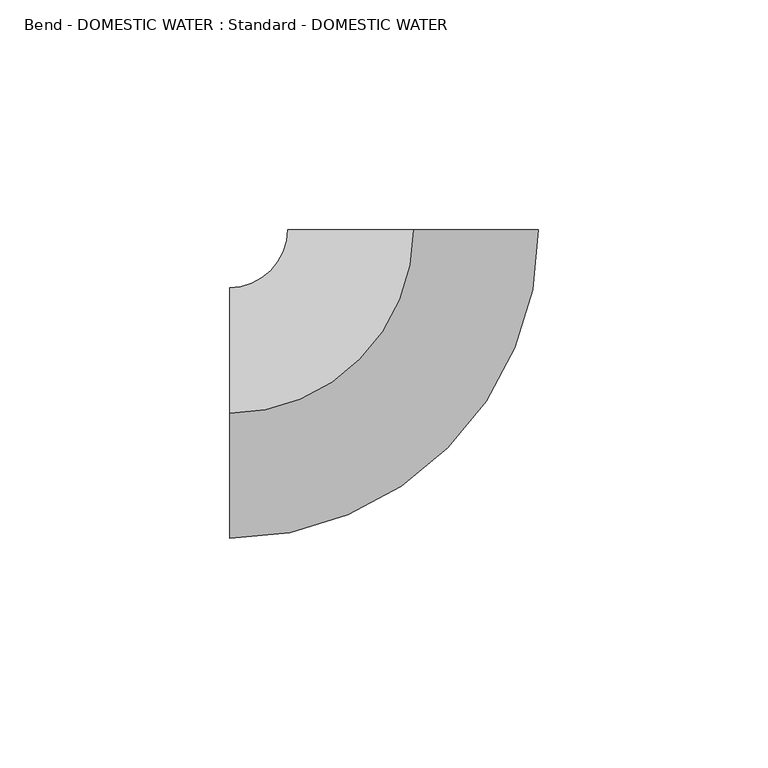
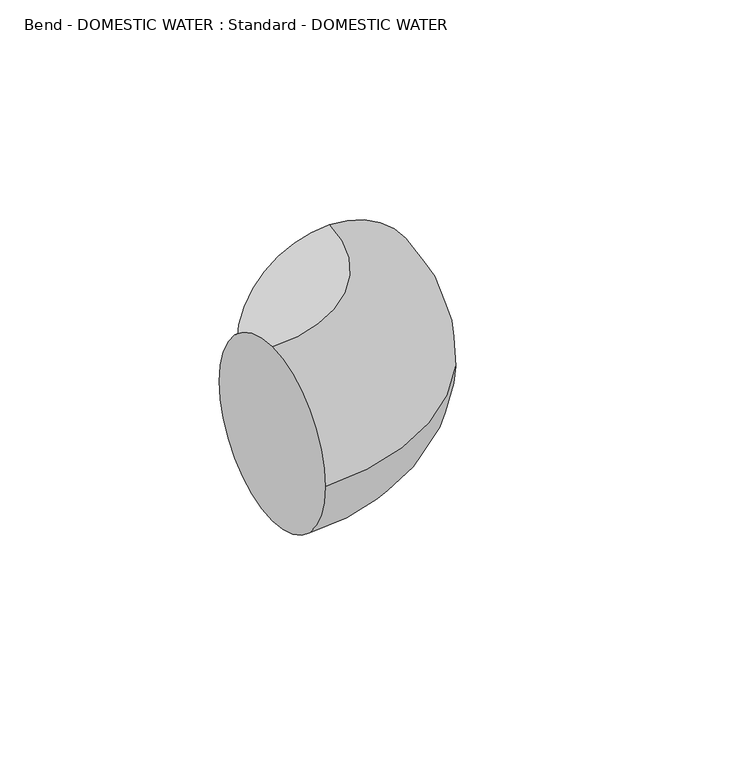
"""IFC4 building model written with IfcOpenShell, lengths in millimetres: pipe fitting geometry, Bend - DOMESTIC WATER : Standard - DOMESTIC WATER."""

from ifc_helpers import new_model, si_unit, point, frame, origin, place, context, project, spatial, circle_curve, ellipse_curve, trimmed, source, transform, mapped, element, save
from ifc_brep_helpers import plane_surface, revolved_surface, advanced_brep


def bend_domestic_water_standard_domestic_water_76ba9614(model_context):
    return source(origin(), model_context, "Body", "AdvancedBrep", [
        advanced_brep(
        [(-40.005, 0.0, 27.305), (-40.005, 27.305, 0.0), (-40.005, 0.0, -27.305), (-40.005, -27.305, 0.0), (0.0, 40.005, 27.305), (27.305, 40.005, 0.0), (0.0, 40.005, -27.305), (-27.305, 40.005, 0.0)],
        [
            (0, 1, circle_curve(frame((-40.005, 0.0, 0.0), z_axis=(-1.0, 0.0, 0.0), x_axis=(0.0, 1.0, 0.0)), 27.305)),
            (1, 2, circle_curve(frame((-40.005, 0.0, 0.0), z_axis=(-1.0, 0.0, 0.0), x_axis=(0.0, 1.0, 0.0)), 27.305)),
            (2, 3, circle_curve(frame((-40.005, 0.0, 0.0), z_axis=(-1.0, 0.0, 0.0), x_axis=(0.0, 1.0, 0.0)), 27.305)),
            (3, 0, circle_curve(frame((-40.005, 0.0, 0.0), z_axis=(-1.0, 0.0, 0.0), x_axis=(0.0, 1.0, 0.0)), 27.305)),
            (4, 5, circle_curve(frame((0.0, 40.005, 0.0), z_axis=(0.0, 1.0, 0.0), x_axis=(-1.0, 0.0, 0.0)), 27.305)),
            (5, 6, circle_curve(frame((0.0, 40.005, 0.0), z_axis=(0.0, 1.0, 0.0), x_axis=(-1.0, 0.0, 0.0)), 27.305)),
            (6, 7, circle_curve(frame((0.0, 40.005, 0.0), z_axis=(0.0, 1.0, 0.0), x_axis=(-1.0, 0.0, 0.0)), 27.305)),
            (7, 4, circle_curve(frame((0.0, 40.005, 0.0), z_axis=(0.0, 1.0, 0.0), x_axis=(-1.0, 0.0, 0.0)), 27.305)),
            (7, 1, circle_curve(frame((-40.005, 40.005, 0.0), z_axis=(0.0, 0.0, -1.0), x_axis=(0.0, -1.0, 0.0)), 12.7)),
            (0, 4, circle_curve(frame((-40.005, 40.005, 27.305), z_axis=(0.0, 0.0, 1.0), x_axis=(0.0, -1.0, 0.0)), 40.005)),
            (6, 2, circle_curve(frame((-40.005, 40.005, -27.305), z_axis=(0.0, 0.0, -1.0), x_axis=(0.0, -1.0, 0.0)), 40.005)),
            (5, 3, circle_curve(frame((-40.005, 40.005, 0.0), z_axis=(0.0, 0.0, -1.0), x_axis=(0.0, -1.0, 0.0)), 67.31)),
        ],
        [
            plane_surface(frame((-40.005, 0.0, 0.0), z_axis=(-1.0, 0.0, 0.0), x_axis=(0.0, 0.0, 1.0))),
            plane_surface(frame((0.0, 40.005, 0.0), z_axis=(0.0, 1.0, 0.0), x_axis=(0.0, 0.0, 1.0))),
            revolved_surface(trimmed(ellipse_curve(frame((-40.005, 0.0, 0.0), z_axis=(-1.0, 0.0, 0.0), x_axis=(0.0, 1.0, 0.0)), 27.305, 27.305), [point((-40.005, 0.0, 27.305))], [point((-40.005, 27.305, 0.0))], True, "CARTESIAN"), (-40.005, 40.005, 0.0), (0.0, 0.0, 1.0)),
            revolved_surface(trimmed(ellipse_curve(frame((-40.005, 0.0, 0.0), z_axis=(-1.0, 0.0, 0.0), x_axis=(0.0, 1.0, 0.0)), 27.305, 27.305), [point((-40.005, 27.305, 0.0))], [point((-40.005, 0.0, -27.305))], True, "CARTESIAN"), (-40.005, 40.005, 0.0), (0.0, 0.0, 1.0)),
            revolved_surface(trimmed(ellipse_curve(frame((-40.005, 0.0, 0.0), z_axis=(-1.0, 0.0, 0.0), x_axis=(0.0, 1.0, 0.0)), 27.305, 27.305), [point((-40.005, 0.0, -27.305))], [point((-40.005, -27.305, 0.0))], True, "CARTESIAN"), (-40.005, 40.005, 0.0), (0.0, 0.0, 1.0)),
            revolved_surface(trimmed(ellipse_curve(frame((-40.005, 0.0, 0.0), z_axis=(-1.0, 0.0, 0.0), x_axis=(0.0, 1.0, 0.0)), 27.305, 27.305), [point((-40.005, -27.305, 0.0))], [point((-40.005, 0.0, 27.305))], True, "CARTESIAN"), (-40.005, 40.005, 0.0), (0.0, 0.0, 1.0)),
        ],
        [
            (0, [[1, 2, 3, 4]]),
            (1, [[5, 6, 7, 8]]),
            (2, [[9, -1, 10, -8]]),
            (3, [[11, -2, -9, -7]]),
            (4, [[12, -3, -11, -6]]),
            (5, [[-10, -4, -12, -5]]),
        ],
    ),
        advanced_brep(
        [(-40.005, 0.0, 27.305), (-40.005, 27.305, 0.0), (-40.005, 0.0, -27.305), (-40.005, -27.305, 0.0), (0.0, 40.005, 27.305), (27.305, 40.005, 0.0), (0.0, 40.005, -27.305), (-27.305, 40.005, 0.0)],
        [
            (0, 1, circle_curve(frame((-40.005, 0.0, 0.0), z_axis=(-1.0, 0.0, 0.0), x_axis=(0.0, 1.0, 0.0)), 27.305)),
            (1, 2, circle_curve(frame((-40.005, 0.0, 0.0), z_axis=(-1.0, 0.0, 0.0), x_axis=(0.0, 1.0, 0.0)), 27.305)),
            (2, 3, circle_curve(frame((-40.005, 0.0, 0.0), z_axis=(-1.0, 0.0, 0.0), x_axis=(0.0, 1.0, 0.0)), 27.305)),
            (3, 0, circle_curve(frame((-40.005, 0.0, 0.0), z_axis=(-1.0, 0.0, 0.0), x_axis=(0.0, 1.0, 0.0)), 27.305)),
            (4, 5, circle_curve(frame((0.0, 40.005, 0.0), z_axis=(0.0, 1.0, 0.0), x_axis=(-1.0, 0.0, 0.0)), 27.305)),
            (5, 6, circle_curve(frame((0.0, 40.005, 0.0), z_axis=(0.0, 1.0, 0.0), x_axis=(-1.0, 0.0, 0.0)), 27.305)),
            (6, 7, circle_curve(frame((0.0, 40.005, 0.0), z_axis=(0.0, 1.0, 0.0), x_axis=(-1.0, 0.0, 0.0)), 27.305)),
            (7, 4, circle_curve(frame((0.0, 40.005, 0.0), z_axis=(0.0, 1.0, 0.0), x_axis=(-1.0, 0.0, 0.0)), 27.305)),
            (7, 1, circle_curve(frame((-40.005, 40.005, 0.0), z_axis=(0.0, 0.0, -1.0), x_axis=(0.0, -1.0, 0.0)), 12.7)),
            (0, 4, circle_curve(frame((-40.005, 40.005, 27.305), z_axis=(0.0, 0.0, 1.0), x_axis=(0.0, -1.0, 0.0)), 40.005)),
            (6, 2, circle_curve(frame((-40.005, 40.005, -27.305), z_axis=(0.0, 0.0, -1.0), x_axis=(0.0, -1.0, 0.0)), 40.005)),
            (5, 3, circle_curve(frame((-40.005, 40.005, 0.0), z_axis=(0.0, 0.0, -1.0), x_axis=(0.0, -1.0, 0.0)), 67.31)),
        ],
        [
            plane_surface(frame((-40.005, 0.0, 0.0), z_axis=(-1.0, 0.0, 0.0), x_axis=(0.0, 0.0, 1.0))),
            plane_surface(frame((0.0, 40.005, 0.0), z_axis=(0.0, 1.0, 0.0), x_axis=(0.0, 0.0, 1.0))),
            revolved_surface(trimmed(ellipse_curve(frame((-40.005, 0.0, 0.0), z_axis=(-1.0, 0.0, 0.0), x_axis=(0.0, 1.0, 0.0)), 27.305, 27.305), [point((-40.005, 0.0, 27.305))], [point((-40.005, 27.305, 0.0))], True, "CARTESIAN"), (-40.005, 40.005, 0.0), (0.0, 0.0, 1.0)),
            revolved_surface(trimmed(ellipse_curve(frame((-40.005, 0.0, 0.0), z_axis=(-1.0, 0.0, 0.0), x_axis=(0.0, 1.0, 0.0)), 27.305, 27.305), [point((-40.005, 27.305, 0.0))], [point((-40.005, 0.0, -27.305))], True, "CARTESIAN"), (-40.005, 40.005, 0.0), (0.0, 0.0, 1.0)),
            revolved_surface(trimmed(ellipse_curve(frame((-40.005, 0.0, 0.0), z_axis=(-1.0, 0.0, 0.0), x_axis=(0.0, 1.0, 0.0)), 27.305, 27.305), [point((-40.005, 0.0, -27.305))], [point((-40.005, -27.305, 0.0))], True, "CARTESIAN"), (-40.005, 40.005, 0.0), (0.0, 0.0, 1.0)),
            revolved_surface(trimmed(ellipse_curve(frame((-40.005, 0.0, 0.0), z_axis=(-1.0, 0.0, 0.0), x_axis=(0.0, 1.0, 0.0)), 27.305, 27.305), [point((-40.005, -27.305, 0.0))], [point((-40.005, 0.0, 27.305))], True, "CARTESIAN"), (-40.005, 40.005, 0.0), (0.0, 0.0, 1.0)),
        ],
        [
            (0, [[1, 2, 3, 4]]),
            (1, [[5, 6, 7, 8]]),
            (2, [[9, -1, 10, -8]]),
            (3, [[11, -2, -9, -7]]),
            (4, [[12, -3, -11, -6]]),
            (5, [[-10, -4, -12, -5]]),
        ],
    ),
    ])


if __name__ == "__main__":
    model = new_model("IFC4")
    model_context = context("Model", 3, world=origin())
    ifc_project = project(units=[si_unit("LENGTHUNIT", "METRE", prefix="MILLI")], contexts=[model_context])
    site = spatial("IfcSite", under=ifc_project)
    building = spatial("IfcBuilding", under=site)
    placement = place(None, origin())
    bend_domestic_water_standard_domestic_water_shape = bend_domestic_water_standard_domestic_water_76ba9614(model_context)
    element("IfcPipeFitting", 1, ObjectType="Bend - DOMESTIC WATER : Standard - DOMESTIC WATER", at=placement, inside=building, context=model_context, shape_type="MappedRepresentation", body=[
        mapped(bend_domestic_water_standard_domestic_water_shape, transform((0.0, 0.0, 0.0), x_axis=(1.0, 0.0, 0.0), y_axis=(0.0, 1.0, 0.0), z_axis=(0.0, 0.0, 1.0))),
    ])
    save(model, "model.ifc")
